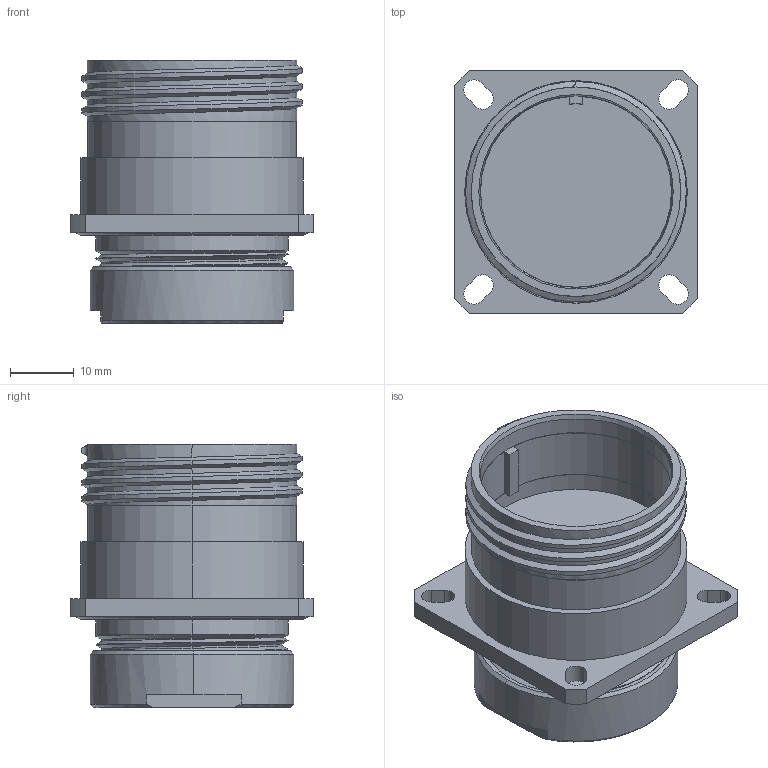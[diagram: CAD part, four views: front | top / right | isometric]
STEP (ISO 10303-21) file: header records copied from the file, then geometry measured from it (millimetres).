
FILE_DESCRIPTION (( 'STEP AP214' ), '1' );
FILE_NAME ('QPLEX3-RFFX-XXXX-SXX.STEP', '2025-04-07T18:18:41', ( '' ), ( '' ), 'SwSTEP 2.0', 'SolidWorks 2024', '' );
FILE_SCHEMA (( 'AUTOMOTIVE_DESIGN' ));
Length unit declared in the file: inch
Products named in the file (1): QPLEX3-RFFX-XXXX-SXX
Bounding box: 38.1 x 38.1 x 41.27 mm (x, y, z)
Volume: 24543.9 mm3; surface area: 10658.6 mm2
Topology: 2 solids, 2 shells, 127 faces, 322 edges, 209 vertices
Faces by surface type: cylinder 64, plane 34, torus 14, cone 11, bspline 4
Entity records: 4871 total; most frequent: CARTESIAN_POINT 1816, ORIENTED_EDGE 644, DIRECTION 635, EDGE_CURVE 322, AXIS2_PLACEMENT_3D 254, VERTEX_POINT 209, EDGE_LOOP 147, CIRCLE 130
